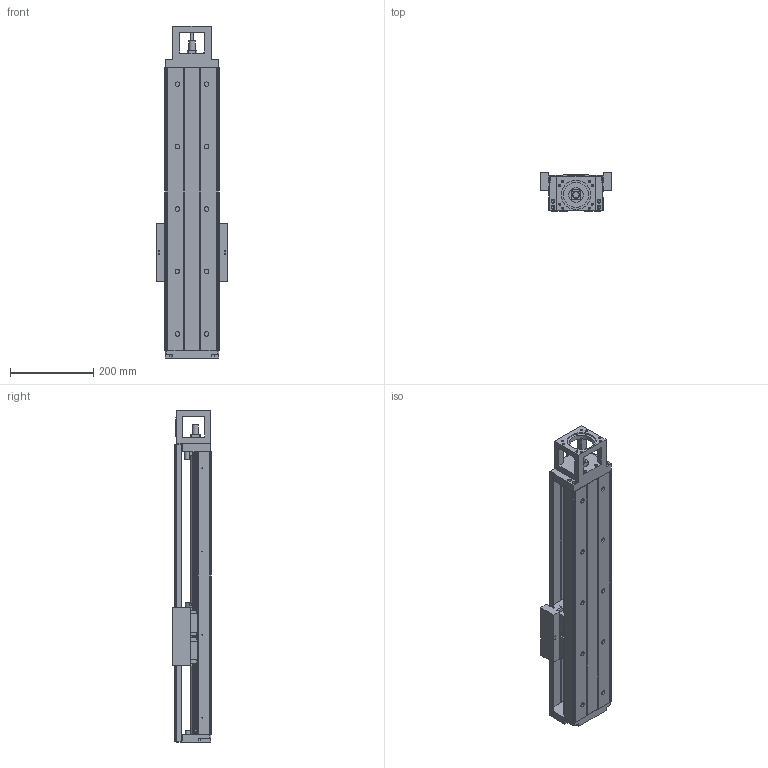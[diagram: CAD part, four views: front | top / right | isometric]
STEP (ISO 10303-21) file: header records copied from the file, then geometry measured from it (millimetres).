
FILE_DESCRIPTION(/* description */ (''),/* implementation_level */ '2;1');
FILE_NAME(/* name */ 'TKK130-680A1F0C.stp',/* time_stamp */ '2016-12-22T13:26:52+08:00',/* author */ (''),/* organization */ (''),/* preprocessor_version */ 'ST-DEVELOPER v15',/* originating_system */ 'SIEMENS PLM Software NX 8.5',/* authorisation */ '');
FILE_SCHEMA (('AUTOMOTIVE_DESIGN { 1 0 10303 214 3 1 1 1 }'));
Length unit declared in the file: millimetre
Products named in the file (3): 022; 011; TKK130-680A1F0C
Assembly tree (2 placements, depth 2):
  TKK130-680A1F0C
    011
    022
Bounding box: 170 x 92 x 798 mm (x, y, z)
Volume: 4049740.1 mm3; surface area: 834393.4 mm2
Topology: 2 solids, 12 shells, 995 faces, 2721 edges, 1775 vertices
Faces by surface type: plane 576, cylinder 286, cone 93, extrusion 33, bspline 6, torus 1
Full cylindrical faces by diameter (mm): 2.1 x8, 2.5 x8, 3.3 x26, 4.5 x20, 5 x23, 6.6 x10, 6.8 x12, 7 x2, 8 x16, 8.5 x4, 9 x8, 11 x18, 12 x4, 15 x1, 16.3 x1, 17 x12, 17.5 x4, 25 x1, 35 x2, 40 x3, 60.03 x1, 70.03 x1
Entity records: 30991 total; most frequent: CARTESIAN_POINT 6909, DIRECTION 4638, ORIENTED_EDGE 4470, EDGE_CURVE 2235, VERTEX_POINT 1632, AXIS2_PLACEMENT_3D 1603, VECTOR 1432, EDGE_LOOP 1401
